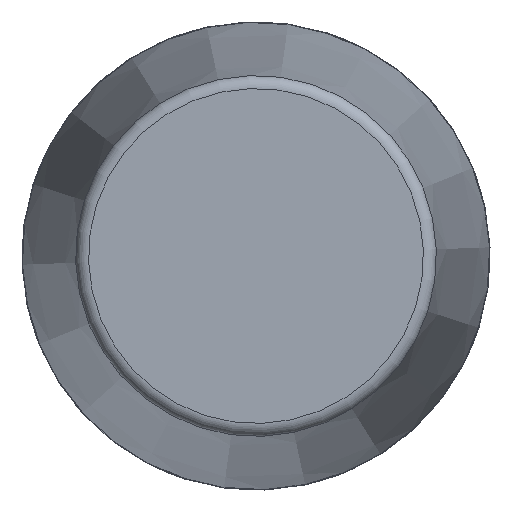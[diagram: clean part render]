
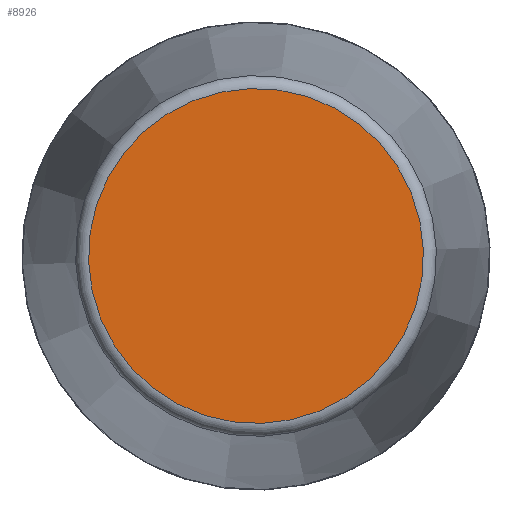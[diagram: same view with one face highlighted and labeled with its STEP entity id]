
A CAD part, front view. The second image highlights one B-rep face of the part: STEP entity #8926.
In plain terms, the highlighted planar face has unit normal (0, -1, 0) as drawn and (1, 0, 0) by its records, which use the part's own axes.
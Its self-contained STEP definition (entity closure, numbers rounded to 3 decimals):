
#2416=PLANE('',#9253);
#3020=FACE_OUTER_BOUND('',#3600,.T.);
#3600=EDGE_LOOP('',(#8397));
#3641=CIRCLE('',#9249,64.374);
#4521=VERTEX_POINT('',#17233);
#5816=EDGE_CURVE('',#4521,#4521,#3641,.T.);
#8397=ORIENTED_EDGE('',*,*,#5816,.F.);
#8926=ADVANCED_FACE('',(#3020),#2416,.T.);
#9249=AXIS2_PLACEMENT_3D('',#17234,#10427,#10428);
#9253=AXIS2_PLACEMENT_3D('',#17240,#10435,#10436);
#10427=DIRECTION('center_axis',(-1.,0.,0.));
#10428=DIRECTION('ref_axis',(0.,0.,
1.));
#10435=DIRECTION('center_axis',(1.,0.,0.));
#10436=DIRECTION('ref_axis',(0.,0.,-1.));
#17233=CARTESIAN_POINT('',(330.,0.,-64.374));
#17234=CARTESIAN_POINT('Origin',(330.,0.,0.));
#17240=CARTESIAN_POINT('Origin',(330.,0.,0.));
